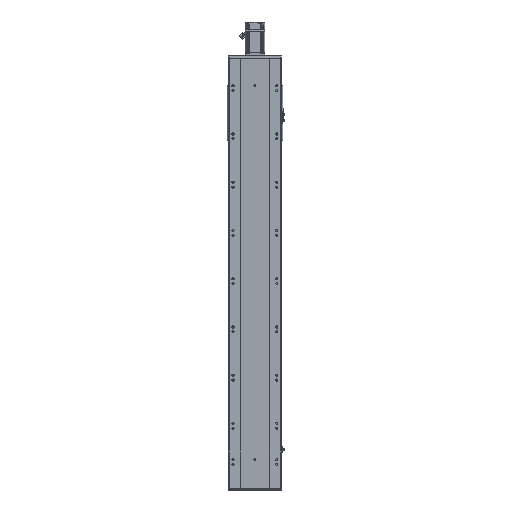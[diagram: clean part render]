
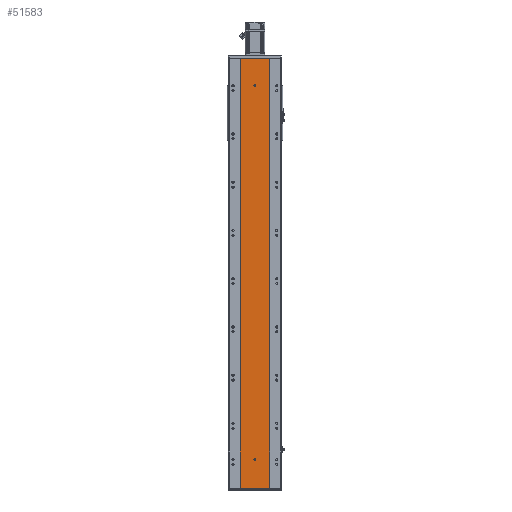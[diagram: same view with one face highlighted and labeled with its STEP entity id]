
A CAD part, front view. The second image highlights one B-rep face of the part: STEP entity #51583.
In plain terms, the highlighted planar face has unit normal (0, -1, 0).
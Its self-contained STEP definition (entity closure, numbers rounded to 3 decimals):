
#280 = VERTEX_POINT ( 'NONE', #10828 ) ;
#2469 = CARTESIAN_POINT ( 'NONE',  ( 4., 0., 116.5 ) ) ;
#3392 = VERTEX_POINT ( 'NONE', #17754 ) ;
#3637 = FACE_BOUND ( 'NONE', #60010, .T. ) ;
#4227 = CARTESIAN_POINT ( 'NONE',  ( 0., 0., 119.5 ) ) ;
#5059 = ORIENTED_EDGE ( 'NONE', *, *, #49034, .F. ) ;
#5522 = CARTESIAN_POINT ( 'NONE',  ( -4., 0., 116.5 ) ) ;
#6642 = DIRECTION ( 'NONE',  ( 0., -1., 0. ) ) ;
#7996 = DIRECTION ( 'NONE',  ( 0., 0., -1. ) ) ;
#10184 = CARTESIAN_POINT ( 'NONE',  ( 0., 0., 116.5 ) ) ;
#10201 = ORIENTED_EDGE ( 'NONE', *, *, #31408, .F. ) ;
#10391 = ORIENTED_EDGE ( 'NONE', *, *, #29259, .F. ) ;
#10828 = CARTESIAN_POINT ( 'NONE',  ( -60., 0., 0. ) ) ;
#10982 = VERTEX_POINT ( 'NONE', #72407 ) ;
#11885 = LINE ( 'NONE', #54096, #58794 ) ;
#12625 = CARTESIAN_POINT ( 'NONE',  ( -60., 0., 1782. ) ) ;
#16162 = AXIS2_PLACEMENT_3D ( 'NONE', #43545, #61261, #49451 ) ;
#17046 = AXIS2_PLACEMENT_3D ( 'NONE', #72639, #24886, #7996 ) ;
#17055 = DIRECTION ( 'NONE',  ( 0., 0., -1. ) ) ;
#17160 = EDGE_CURVE ( 'NONE', #72008, #280, #11885, .T. ) ;
#17754 = CARTESIAN_POINT ( 'NONE',  ( -4., 0., 119.5 ) ) ;
#19878 = AXIS2_PLACEMENT_3D ( 'NONE', #10184, #63337, #45623 ) ;
#21642 = ORIENTED_EDGE ( 'NONE', *, *, #74806, .T. ) ;
#22465 = CARTESIAN_POINT ( 'NONE',  ( 4., 0., 119.5 ) ) ;
#24886 = DIRECTION ( 'NONE',  ( 0., -1., 0. ) ) ;
#26070 = VERTEX_POINT ( 'NONE', #71585 ) ;
#26458 = EDGE_CURVE ( 'NONE', #32949, #10982, #27413, .T. ) ;
#27278 = ORIENTED_EDGE ( 'NONE', *, *, #52655, .F. ) ;
#27413 = CIRCLE ( 'NONE', #19878, 4. ) ;
#28634 = CARTESIAN_POINT ( 'NONE',  ( 60., 0., 1782. ) ) ;
#29259 = EDGE_CURVE ( 'NONE', #54562, #3392, #59485, .T. ) ;
#29561 = EDGE_CURVE ( 'NONE', #10982, #32044, #61225, .T. ) ;
#31408 = EDGE_CURVE ( 'NONE', #26070, #55615, #34460, .T. ) ;
#32044 = VERTEX_POINT ( 'NONE', #52412 ) ;
#32420 = CIRCLE ( 'NONE', #36430, 4. ) ;
#32949 = VERTEX_POINT ( 'NONE', #74345 ) ;
#33545 = DIRECTION ( 'NONE',  ( 1., 0., 0. ) ) ;
#34460 = CIRCLE ( 'NONE', #57046, 4. ) ;
#34655 = EDGE_CURVE ( 'NONE', #32044, #54562, #41366, .T. ) ;
#36376 = CARTESIAN_POINT ( 'NONE',  ( 0., 0., 1668. ) ) ;
#36430 = AXIS2_PLACEMENT_3D ( 'NONE', #36376, #6642, #47685 ) ;
#37305 = LINE ( 'NONE', #28634, #66731 ) ;
#37577 = DIRECTION ( 'NONE',  ( 0., 0., 1. ) ) ;
#38867 = DIRECTION ( 'NONE',  ( 0., 0., -1. ) ) ;
#39991 = LINE ( 'NONE', #46783, #69368 ) ;
#40479 = CARTESIAN_POINT ( 'NONE',  ( 0., 0., 1664. ) ) ;
#40745 = ORIENTED_EDGE ( 'NONE', *, *, #26458, .F. ) ;
#41366 = LINE ( 'NONE', #2469, #75305 ) ;
#43545 = CARTESIAN_POINT ( 'NONE',  ( -60., 0., 1782. ) ) ;
#45041 = DIRECTION ( 'NONE',  ( 0., -1., 0. ) ) ;
#45101 = AXIS2_PLACEMENT_3D ( 'NONE', #4227, #45523, #45273 ) ;
#45273 = DIRECTION ( 'NONE',  ( 0., 0., -1. ) ) ;
#45523 = DIRECTION ( 'NONE',  ( 0., -1., 0. ) ) ;
#45623 = DIRECTION ( 'NONE',  ( 0., 0., -1. ) ) ;
#46570 = DIRECTION ( 'NONE',  ( 0., 0., -1. ) ) ;
#46783 = CARTESIAN_POINT ( 'NONE',  ( -60., 0., 1782. ) ) ;
#47685 = DIRECTION ( 'NONE',  ( 0., 0., -1. ) ) ;
#48593 = EDGE_CURVE ( 'NONE', #66713, #66867, #37305, .T. ) ;
#49034 = EDGE_CURVE ( 'NONE', #72008, #66713, #39991, .T. ) ;
#49043 = CARTESIAN_POINT ( 'NONE',  ( 60., 0., 1782. ) ) ;
#49451 = DIRECTION ( 'NONE',  ( 0., 0., 1. ) ) ;
#51036 = CARTESIAN_POINT ( 'NONE',  ( -60., 0., 0. ) ) ;
#51583 = ADVANCED_FACE ( 'NONE', ( #53338, #3637, #61412 ), #62039, .F. ) ;
#51934 = VECTOR ( 'NONE', #46570, 1000. ) ;
#52412 = CARTESIAN_POINT ( 'NONE',  ( 4., 0., 116.5 ) ) ;
#52655 = EDGE_CURVE ( 'NONE', #55615, #26070, #32420, .T. ) ;
#52814 = LINE ( 'NONE', #5522, #51934 ) ;
#53338 = FACE_BOUND ( 'NONE', #56119, .T. ) ;
#54096 = CARTESIAN_POINT ( 'NONE',  ( -60., 0., 1782. ) ) ;
#54513 = DIRECTION ( 'NONE',  ( 1., 0., 0. ) ) ;
#54562 = VERTEX_POINT ( 'NONE', #22465 ) ;
#55212 = ORIENTED_EDGE ( 'NONE', *, *, #48593, .F. ) ;
#55261 = ORIENTED_EDGE ( 'NONE', *, *, #69285, .F. ) ;
#55615 = VERTEX_POINT ( 'NONE', #40479 ) ;
#56119 = EDGE_LOOP ( 'NONE', ( #27278, #10201 ) ) ;
#56221 = CARTESIAN_POINT ( 'NONE',  ( 60., 0., 0. ) ) ;
#57046 = AXIS2_PLACEMENT_3D ( 'NONE', #74790, #45041, #38867 ) ;
#58794 = VECTOR ( 'NONE', #59998, 1000. ) ;
#59485 = CIRCLE ( 'NONE', #45101, 4. ) ;
#59998 = DIRECTION ( 'NONE',  ( 0., 0., -1. ) ) ;
#60010 = EDGE_LOOP ( 'NONE', ( #71103, #65563, #40745, #55261, #10391 ) ) ;
#60122 = VECTOR ( 'NONE', #33545, 1000. ) ;
#61225 = CIRCLE ( 'NONE', #17046, 4. ) ;
#61261 = DIRECTION ( 'NONE',  ( 0., 1., 0. ) ) ;
#61412 = FACE_OUTER_BOUND ( 'NONE', #75890, .T. ) ;
#62039 = PLANE ( 'NONE',  #16162 ) ;
#63337 = DIRECTION ( 'NONE',  ( 0., -1., 0. ) ) ;
#64694 = LINE ( 'NONE', #51036, #60122 ) ;
#65563 = ORIENTED_EDGE ( 'NONE', *, *, #29561, .F. ) ;
#66713 = VERTEX_POINT ( 'NONE', #49043 ) ;
#66731 = VECTOR ( 'NONE', #17055, 1000. ) ;
#66867 = VERTEX_POINT ( 'NONE', #56221 ) ;
#69285 = EDGE_CURVE ( 'NONE', #3392, #32949, #52814, .T. ) ;
#69368 = VECTOR ( 'NONE', #54513, 1000. ) ;
#71103 = ORIENTED_EDGE ( 'NONE', *, *, #34655, .F. ) ;
#71585 = CARTESIAN_POINT ( 'NONE',  ( 0., 0., 1672. ) ) ;
#72008 = VERTEX_POINT ( 'NONE', #12625 ) ;
#72407 = CARTESIAN_POINT ( 'NONE',  ( 0., 0., 112.5 ) ) ;
#72639 = CARTESIAN_POINT ( 'NONE',  ( 0., 0., 116.5 ) ) ;
#74203 = ORIENTED_EDGE ( 'NONE', *, *, #17160, .T. ) ;
#74345 = CARTESIAN_POINT ( 'NONE',  ( -4., 0., 116.5 ) ) ;
#74790 = CARTESIAN_POINT ( 'NONE',  ( 0., 0., 1668. ) ) ;
#74806 = EDGE_CURVE ( 'NONE', #280, #66867, #64694, .T. ) ;
#75305 = VECTOR ( 'NONE', #37577, 1000. ) ;
#75890 = EDGE_LOOP ( 'NONE', ( #21642, #55212, #5059, #74203 ) ) ;
